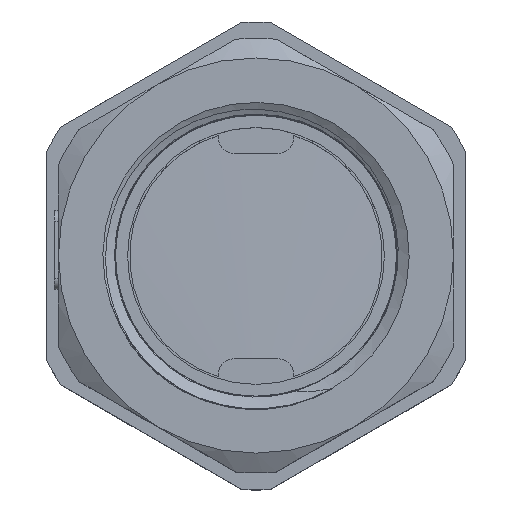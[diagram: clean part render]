
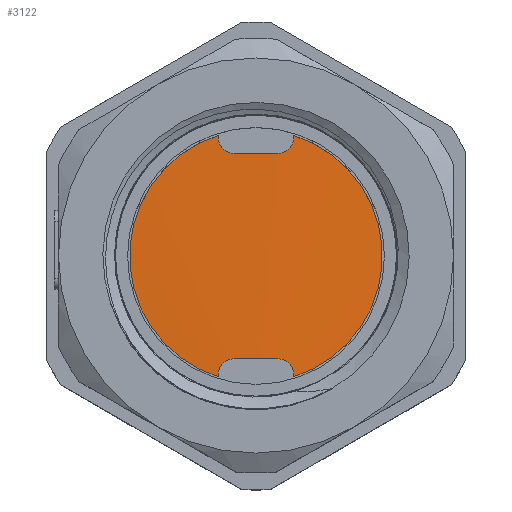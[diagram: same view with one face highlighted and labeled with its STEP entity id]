
A CAD part, top view. The second image highlights one B-rep face of the part: STEP entity #3122.
In plain terms, the highlighted cylindrical face has radius 20.95 mm (diameter 41.9 mm), a full revolution.
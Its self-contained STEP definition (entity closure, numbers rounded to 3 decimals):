
#328=FACE_OUTER_BOUND('',#523,.T.);
#523=EDGE_LOOP('',(#2616,#2617,#2618));
#789=B_SPLINE_CURVE_WITH_KNOTS('',3,(#11839,#11840,#11841,#11842,#11843,
#11844,#11845,#11846,#11847,#11848,#11849,#11850,#11851,#11852,#11853,#11854,
#11855,#11856,#11857,#11858,#11859,#11860,#11861,#11862,#11863,#11864,#11865,
#11866,#11867,#11868,#11869,#11870,#11871,#11872,#11873,#11874,#11875,#11876,
#11877,#11878,#11879,#11880,#11881),.UNSPECIFIED.,.F.,.F.,(4,3,3,3,3,3,
3,3,3,3,3,3,3,3,4),(-50.265,-50.133,-49.64,
-49.146,-48.653,-48.16,-47.667,
-47.174,-46.681,-46.188,-45.694,
-45.201,-44.708,-44.215,-43.982),
 .UNSPECIFIED.);
#982=LINE('',#11836,#1158);
#983=LINE('',#11838,#1159);
#1158=VECTOR('',#4045,20.95);
#1159=VECTOR('',#4046,20.95);
#1414=VERTEX_POINT('',#11834);
#1415=VERTEX_POINT('',#11835);
#1416=VERTEX_POINT('',#11837);
#1831=EDGE_CURVE('',#1414,#1415,#982,.T.);
#1832=EDGE_CURVE('',#1414,#1416,#983,.T.);
#1833=EDGE_CURVE('',#1416,#1415,#789,.T.);
#2616=ORIENTED_EDGE('',*,*,#1831,.F.);
#2617=ORIENTED_EDGE('',*,*,#1832,.T.);
#2618=ORIENTED_EDGE('',*,*,#1833,.T.);
#2975=CYLINDRICAL_SURFACE('',#3442,20.95);
#3122=ADVANCED_FACE('',(#328),#2975,.T.);
#3442=AXIS2_PLACEMENT_3D('',#11833,#4043,#4044);
#4043=DIRECTION('center_axis',(0.,0.,-1.));
#4044=DIRECTION('ref_axis',(0.,1.,0.));
#4045=DIRECTION('',(0.,0.,-1.));
#4046=DIRECTION('',(0.,0.,1.));
#11833=CARTESIAN_POINT('Origin',(0.,0.,9.25));
#11834=CARTESIAN_POINT('',(0.,-20.95,16.171));
#11835=CARTESIAN_POINT('',(0.,-20.95,13.879));
#11836=CARTESIAN_POINT('',(0.,-20.95,9.25));
#11837=CARTESIAN_POINT('',(0.,-20.95,16.191));
#11838=CARTESIAN_POINT('',(0.,-20.95,9.25));
#11839=CARTESIAN_POINT('Ctrl Pts',(-0.001,-20.95,
16.191));
#11840=CARTESIAN_POINT('Ctrl Pts',(-0.928,-20.95,
16.174));
#11841=CARTESIAN_POINT('Ctrl Pts',(-1.856,-20.89,
16.158));
#11842=CARTESIAN_POINT('Ctrl Pts',(-2.775,-20.767,16.142));
#11843=CARTESIAN_POINT('Ctrl Pts',(-6.188,-20.311,
16.081));
#11844=CARTESIAN_POINT('Ctrl Pts',(-9.485,-18.996,
16.021));
#11845=CARTESIAN_POINT('Ctrl Pts',(-12.275,-16.979,
15.96));
#11846=CARTESIAN_POINT('Ctrl Pts',(-15.065,-14.962,
15.9));
#11847=CARTESIAN_POINT('Ctrl Pts',(-17.348,-12.243,15.839));
#11848=CARTESIAN_POINT('Ctrl Pts',(-18.851,-9.145,
15.779));
#11849=CARTESIAN_POINT('Ctrl Pts',(-20.353,-6.048,
15.718));
#11850=CARTESIAN_POINT('Ctrl Pts',(-21.076,-2.572,15.658));
#11851=CARTESIAN_POINT('Ctrl Pts',(-20.934,0.868,
15.597));
#11852=CARTESIAN_POINT('Ctrl Pts',(-20.791,4.308,15.537));
#11853=CARTESIAN_POINT('Ctrl Pts',(-19.783,7.712,15.477));
#11854=CARTESIAN_POINT('Ctrl Pts',(-18.029,10.674,15.416));
#11855=CARTESIAN_POINT('Ctrl Pts',(-16.275,13.637,15.356));
#11856=CARTESIAN_POINT('Ctrl Pts',(-13.775,16.158,15.295));
#11857=CARTESIAN_POINT('Ctrl Pts',(-10.828,17.937,15.235));
#11858=CARTESIAN_POINT('Ctrl Pts',(-7.88,19.716,15.174));
#11859=CARTESIAN_POINT('Ctrl Pts',(-4.485,20.754,15.114));
#11860=CARTESIAN_POINT('Ctrl Pts',(-1.046,20.926,15.053));
#11861=CARTESIAN_POINT('Ctrl Pts',(2.392,21.098,14.993));
#11862=CARTESIAN_POINT('Ctrl Pts',(5.874,20.404,14.932));
#11863=CARTESIAN_POINT('Ctrl Pts',(8.984,18.928,14.872));
#11864=CARTESIAN_POINT('Ctrl Pts',(12.094,17.451,14.811));
#11865=CARTESIAN_POINT('Ctrl Pts',(14.833,15.192,14.751));
#11866=CARTESIAN_POINT('Ctrl Pts',(16.874,12.42,14.69));
#11867=CARTESIAN_POINT('Ctrl Pts',(18.915,9.647,14.63));
#11868=CARTESIAN_POINT('Ctrl Pts',(20.258,6.36,14.569));
#11869=CARTESIAN_POINT('Ctrl Pts',(20.743,2.952,14.509));
#11870=CARTESIAN_POINT('Ctrl Pts',(21.228,-0.457,
14.449));
#11871=CARTESIAN_POINT('Ctrl Pts',(20.855,-3.987,14.388));
#11872=CARTESIAN_POINT('Ctrl Pts',(19.669,-7.219,14.328));
#11873=CARTESIAN_POINT('Ctrl Pts',(18.483,-10.451,14.267));
#11874=CARTESIAN_POINT('Ctrl Pts',(16.483,-13.384,14.207));
#11875=CARTESIAN_POINT('Ctrl Pts',(13.908,-15.67,14.146));
#11876=CARTESIAN_POINT('Ctrl Pts',(11.333,-17.955,14.086));
#11877=CARTESIAN_POINT('Ctrl Pts',(8.183,-19.593,14.025));
#11878=CARTESIAN_POINT('Ctrl Pts',(4.833,-20.387,13.965));
#11879=CARTESIAN_POINT('Ctrl Pts',(3.252,-20.762,13.936));
#11880=CARTESIAN_POINT('Ctrl Pts',(1.626,-20.949,13.908));
#11881=CARTESIAN_POINT('Ctrl Pts',(0.,-20.948,
13.879));
